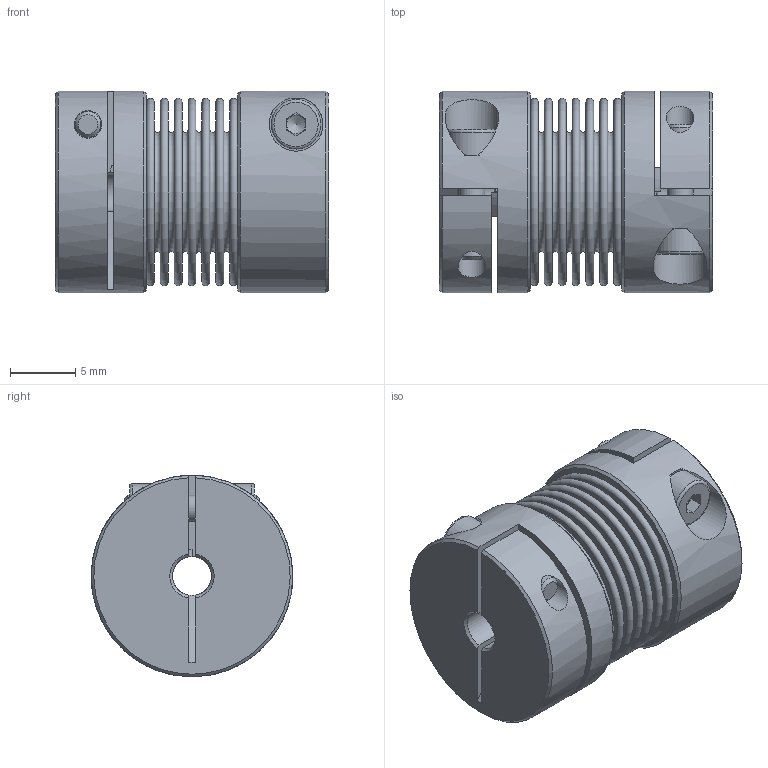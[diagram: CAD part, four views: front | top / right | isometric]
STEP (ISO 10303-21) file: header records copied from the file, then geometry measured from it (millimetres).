
FILE_DESCRIPTION(/* description */ ('STEP AP203'),/* implementation_level */ '2;1');
FILE_NAME(/* name */ 'KB2-5-21-3-3',/* time_stamp */ '2022-09-12T12:41:15+02:00',/* author */ ('License CC BY-ND 4.0'),/* organization */ ('CADENAS'),/* preprocessor_version */ 'ST-DEVELOPER v18.102',/* originating_system */ 'PARTsolutions',/* authorisation */ ' ');
FILE_SCHEMA (('CONFIG_CONTROL_DESIGN'));
Length unit declared in the file: millimetre
Products named in the file (1): KB2-5-21-3-3
Bounding box: 21 x 15.5 x 15.5 mm (x, y, z)
Volume: 2534 mm3; surface area: 4935.7 mm2
Topology: 1 solids, 1 shells, 133 faces, 277 edges, 184 vertices
Faces by surface type: plane 70, torus 28, cylinder 22, cone 13
Full cylindrical faces by diameter (mm): 2 x2, 2.126 x4, 3 x2, 3.8 x2, 9.6 x2, 15.5 x2
Entity records: 3352 total; most frequent: CARTESIAN_POINT 640, DIRECTION 582, ORIENTED_EDGE 434, AXIS2_PLACEMENT_3D 251, FACE_BOUND 228, EDGE_LOOP 226, EDGE_CURVE 217, VERTEX_POINT 175
